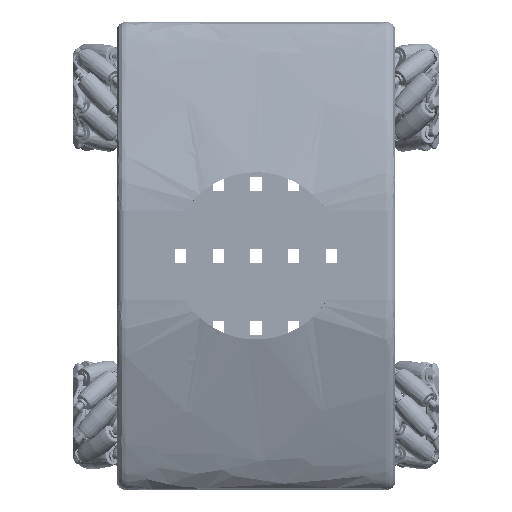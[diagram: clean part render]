
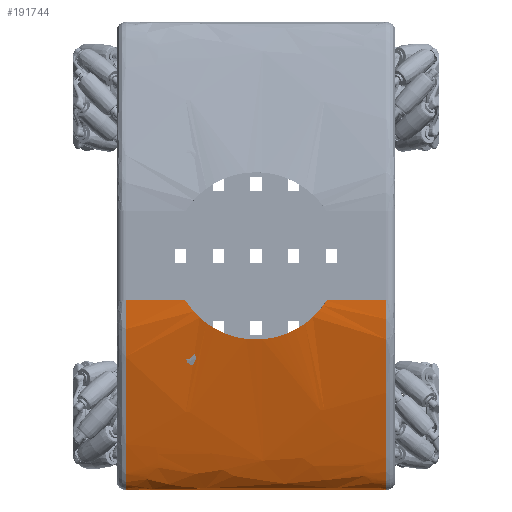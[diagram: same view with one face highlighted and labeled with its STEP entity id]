
A CAD part, top view. The second image highlights one B-rep face of the part: STEP entity #191744.
In plain terms, the highlighted free-form (B-spline) face has degree [4, 1] with [6, 2] control points.
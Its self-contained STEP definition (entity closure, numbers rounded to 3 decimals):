
#300=B_SPLINE_SURFACE_WITH_KNOTS('',4,1,((#612955,#612956),(#612957,#612958),
(#612959,#612960),(#612961,#612962),(#612963,#612964),(#612965,#612966)),
 .UNSPECIFIED.,.F.,.F.,.F.,(5,1,5),(2,2),(0.,0.562,1.),(-12.5,
12.5),.UNSPECIFIED.);
#10505=B_SPLINE_CURVE_WITH_KNOTS('',3,(#611971,#611972,#611973,#611974,
#611975,#611976,#611977,#611978,#611979,#611980,#611981,#611982,#611983,
#611984),.UNSPECIFIED.,.F.,.F.,(4,2,2,2,2,2,4),(-15.18,-12.861,
-10.593,-8.031,-5.515,-2.766,
0.),.UNSPECIFIED.);
#10510=B_SPLINE_CURVE_WITH_KNOTS('',3,(#612722,#612723,#612724,#612725,
#612726,#612727,#612728,#612729,#612730,#612731,#612732,#612733,#612734,
#612735,#612736,#612737,#612738,#612739,#612740,#612741,#612742,#612743,
#612744,#612745,#612746,#612747,#612748,#612749),.UNSPECIFIED.,.F.,.F.,
(4,1,1,1,1,1,1,1,1,1,1,1,1,1,1,1,1,1,1,1,1,1,1,1,1,4),(0.,
1.235,2.471,4.942,6.177,9.06,
9.883,12.354,13.59,14.825,15.134,
15.443,15.597,16.06,16.369,16.678,
16.717,16.832,16.987,17.064,17.083,
17.141,17.219,17.257,17.267,17.296),
 .UNSPECIFIED.);
#10511=B_SPLINE_CURVE_WITH_KNOTS('',3,(#612904,#612905,#612906,#612907,
#612908,#612909,#612910,#612911,#612912,#612913,#612914,#612915,#612916,
#612917,#612918,#612919,#612920,#612921,#612922,#612923,#612924,#612925),
 .UNSPECIFIED.,.F.,.F.,(4,1,1,1,1,1,1,1,1,1,1,1,1,1,1,1,1,1,1,4),(0.,0.039,
0.077,0.154,0.232,0.309,
0.463,0.618,0.927,1.235,
1.853,2.471,3.706,4.942,7.412,
9.883,12.354,14.825,16.06,17.296),
 .UNSPECIFIED.);
#38349=FACE_OUTER_BOUND('',#50547,.T.);
#50547=EDGE_LOOP('',(#177523,#177524,#177525,#177526,#177527,#177528));
#59639=LINE('',#612024,#68785);
#59640=LINE('',#612027,#68786);
#59691=LINE('',#612967,#68837);
#68785=VECTOR('',#261652,10.);
#68786=VECTOR('',#261655,10.);
#68837=VECTOR('',#261828,10.);
#94888=VERTEX_POINT('',#611969);
#94889=VERTEX_POINT('',#611970);
#94901=VERTEX_POINT('',#612022);
#94902=VERTEX_POINT('',#612026);
#94958=VERTEX_POINT('',#612720);
#94965=VERTEX_POINT('',#612903);
#122391=EDGE_CURVE('',#94888,#94889,#10505,.T.);
#122405=EDGE_CURVE('',#94888,#94901,#59639,.T.);
#122406=EDGE_CURVE('',#94902,#94889,#59640,.T.);
#122482=EDGE_CURVE('',#94901,#94958,#10510,.T.);
#122494=EDGE_CURVE('',#94965,#94902,#10511,.T.);
#122500=EDGE_CURVE('',#94965,#94958,#59691,.T.);
#177523=ORIENTED_EDGE('',*,*,#122391,.F.);
#177524=ORIENTED_EDGE('',*,*,#122405,.T.);
#177525=ORIENTED_EDGE('',*,*,#122482,.T.);
#177526=ORIENTED_EDGE('',*,*,#122500,.F.);
#177527=ORIENTED_EDGE('',*,*,#122494,.T.);
#177528=ORIENTED_EDGE('',*,*,#122406,.T.);
#191744=ADVANCED_FACE('',(#38349),#300,.F.);
#261652=DIRECTION('',(0.,0.,-1.));
#261655=DIRECTION('',(0.,0.,-1.));
#261828=DIRECTION('',(0.,0.,-1.));
#611969=CARTESIAN_POINT('',(-60.,-40.,-63.443));
#611970=CARTESIAN_POINT('',(-60.,-40.,63.443));
#611971=CARTESIAN_POINT('Ctrl Pts',(-60.,-40.,-63.443));
#611972=CARTESIAN_POINT('Ctrl Pts',(-60.,-46.541,-59.319));
#611973=CARTESIAN_POINT('Ctrl Pts',(-59.546,-52.392,
-54.216));
#611974=CARTESIAN_POINT('Ctrl Pts',(-58.394,-62.211,
-42.563));
#611975=CARTESIAN_POINT('Ctrl Pts',(-57.718,-66.171,
-36.102));
#611976=CARTESIAN_POINT('Ctrl Pts',(-56.561,-72.418,
-21.291));
#611977=CARTESIAN_POINT('Ctrl Pts',(-56.131,-74.372,
-12.922));
#611978=CARTESIAN_POINT('Ctrl Pts',(-55.919,-75.363,
4.005));
#611979=CARTESIAN_POINT('Ctrl Pts',(-56.128,-74.442,
12.398));
#611980=CARTESIAN_POINT('Ctrl Pts',(-57.088,-69.653,
29.283));
#611981=CARTESIAN_POINT('Ctrl Pts',(-57.885,-65.56,
37.552));
#611982=CARTESIAN_POINT('Ctrl Pts',(-59.356,-54.607,
52.224));
#611983=CARTESIAN_POINT('Ctrl Pts',(-60.,-47.798,58.526));
#611984=CARTESIAN_POINT('Ctrl Pts',(-60.,-40.,63.443));
#612022=CARTESIAN_POINT('',(-60.,-40.,-117.));
#612024=CARTESIAN_POINT('',(-60.,-40.,0.));
#612026=CARTESIAN_POINT('',(-60.,-40.,117.));
#612027=CARTESIAN_POINT('',(-60.,-40.,0.));
#612720=CARTESIAN_POINT('',(0.,-209.958,-117.));
#612722=CARTESIAN_POINT('Ctrl Pts',(-60.,-40.,-117.));
#612723=CARTESIAN_POINT('Ctrl Pts',(-60.,-44.362,-117.));
#612724=CARTESIAN_POINT('Ctrl Pts',(-59.596,-53.106,
-117.));
#612725=CARTESIAN_POINT('Ctrl Pts',(-57.296,-70.278,
-117.));
#612726=CARTESIAN_POINT('Ctrl Pts',(-53.352,-86.796,
-117.));
#612727=CARTESIAN_POINT('Ctrl Pts',(-47.113,-108.246,
-117.));
#612728=CARTESIAN_POINT('Ctrl Pts',(-41.96,-123.992,
-117.));
#612729=CARTESIAN_POINT('Ctrl Pts',(-35.399,-143.563,
-117.));
#612730=CARTESIAN_POINT('Ctrl Pts',(-30.512,-157.877,
-117.));
#612731=CARTESIAN_POINT('Ctrl Pts',(-25.064,-173.519,
-117.));
#612732=CARTESIAN_POINT('Ctrl Pts',(-21.86,-182.337,
-117.));
#612733=CARTESIAN_POINT('Ctrl Pts',(-19.519,-188.282,-117.));
#612734=CARTESIAN_POINT('Ctrl Pts',(-18.489,-190.776,
-117.));
#612735=CARTESIAN_POINT('Ctrl Pts',(-17.181,-193.792,-117.));
#612736=CARTESIAN_POINT('Ctrl Pts',(-15.768,-196.841,
-117.));
#612737=CARTESIAN_POINT('Ctrl Pts',(-13.773,-200.524,
-117.));
#612738=CARTESIAN_POINT('Ctrl Pts',(-12.247,-202.879,
-117.));
#612739=CARTESIAN_POINT('Ctrl Pts',(-10.84,-204.661,
-117.));
#612740=CARTESIAN_POINT('Ctrl Pts',(-9.754,-205.885,
-117.));
#612741=CARTESIAN_POINT('Ctrl Pts',(-8.109,-207.432,
-117.));
#612742=CARTESIAN_POINT('Ctrl Pts',(-6.085,-208.623,
-117.));
#612743=CARTESIAN_POINT('Ctrl Pts',(-4.655,-209.225,
-117.));
#612744=CARTESIAN_POINT('Ctrl Pts',(-3.191,-209.672,
-117.));
#612745=CARTESIAN_POINT('Ctrl Pts',(-1.85,-209.869,
-117.));
#612746=CARTESIAN_POINT('Ctrl Pts',(-0.971,-209.933,
-117.));
#612747=CARTESIAN_POINT('Ctrl Pts',(-0.434,-209.954,
-117.));
#612748=CARTESIAN_POINT('Ctrl Pts',(-0.178,-209.958,
-117.));
#612749=CARTESIAN_POINT('Ctrl Pts',(0.,-209.958,
-117.));
#612903=CARTESIAN_POINT('',(0.,-209.958,117.));
#612904=CARTESIAN_POINT('Ctrl Pts',(0.,-209.958,
117.));
#612905=CARTESIAN_POINT('Ctrl Pts',(-0.238,-209.958,
117.));
#612906=CARTESIAN_POINT('Ctrl Pts',(-0.767,-209.949,
117.));
#612907=CARTESIAN_POINT('Ctrl Pts',(-1.854,-209.867,
117.));
#612908=CARTESIAN_POINT('Ctrl Pts',(-3.331,-209.658,
117.));
#612909=CARTESIAN_POINT('Ctrl Pts',(-5.614,-208.907,
117.));
#612910=CARTESIAN_POINT('Ctrl Pts',(-8.114,-207.427,
117.));
#612911=CARTESIAN_POINT('Ctrl Pts',(-9.94,-205.721,
117.));
#612912=CARTESIAN_POINT('Ctrl Pts',(-11.987,-203.299,
117.));
#612913=CARTESIAN_POINT('Ctrl Pts',(-13.771,-200.523,
117.));
#612914=CARTESIAN_POINT('Ctrl Pts',(-16.052,-196.318,
117.));
#612915=CARTESIAN_POINT('Ctrl Pts',(-18.323,-191.262,
117.));
#612916=CARTESIAN_POINT('Ctrl Pts',(-21.506,-183.316,
117.));
#612917=CARTESIAN_POINT('Ctrl Pts',(-25.061,-173.519,
117.));
#612918=CARTESIAN_POINT('Ctrl Pts',(-30.515,-157.877,
117.));
#612919=CARTESIAN_POINT('Ctrl Pts',(-37.17,-138.357,
117.));
#612920=CARTESIAN_POINT('Ctrl Pts',(-45.003,-114.846,
117.));
#612921=CARTESIAN_POINT('Ctrl Pts',(-52.356,-90.924,
117.));
#612922=CARTESIAN_POINT('Ctrl Pts',(-57.3,-70.278,
117.));
#612923=CARTESIAN_POINT('Ctrl Pts',(-59.594,-53.105,
117.));
#612924=CARTESIAN_POINT('Ctrl Pts',(-60.,-44.362,117.));
#612925=CARTESIAN_POINT('Ctrl Pts',(-60.,-40.,117.));
#612955=CARTESIAN_POINT('Ctrl Pts',(-60.,-40.,125.));
#612956=CARTESIAN_POINT('Ctrl Pts',(-60.,-40.,-125.));
#612957=CARTESIAN_POINT('Ctrl Pts',(-60.,-70.877,125.));
#612958=CARTESIAN_POINT('Ctrl Pts',(-60.,-70.877,-125.));
#612959=CARTESIAN_POINT('Ctrl Pts',(-44.15,-116.858,
125.));
#612960=CARTESIAN_POINT('Ctrl Pts',(-44.15,-116.858,
-125.));
#612961=CARTESIAN_POINT('Ctrl Pts',(-21.138,-188.013,
125.));
#612962=CARTESIAN_POINT('Ctrl Pts',(-21.138,-188.013,
-125.));
#612963=CARTESIAN_POINT('Ctrl Pts',(-11.224,-209.958,
125.));
#612964=CARTESIAN_POINT('Ctrl Pts',(-11.224,-209.958,
-125.));
#612965=CARTESIAN_POINT('Ctrl Pts',(0.,-209.958,
125.));
#612966=CARTESIAN_POINT('Ctrl Pts',(0.,-209.958,
-125.));
#612967=CARTESIAN_POINT('',(0.,-209.958,0.));
